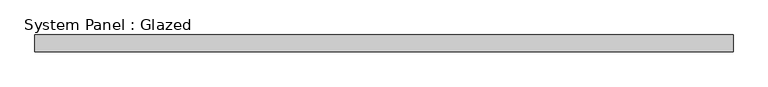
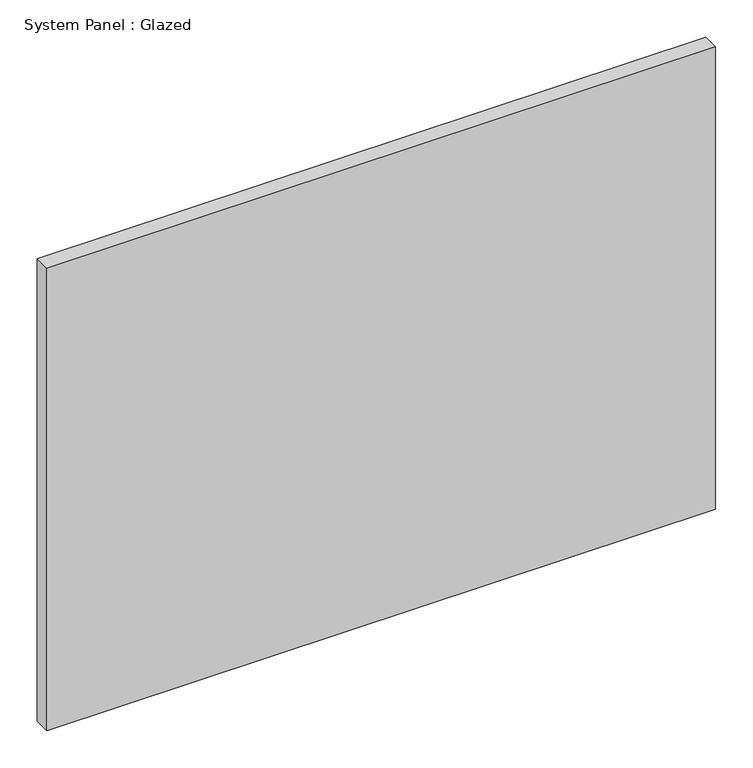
"""IFC4 building model written with IfcOpenShell, lengths in millimetres: plate geometry, System Panel : Glazed."""

from ifc_helpers import new_model, si_unit, origin, origin_with_axes, place, context, project, spatial, polyline, outline, extrude, source, transform, mapped, element, save


def system_panel_glazed_733af30a(model_context):
    return source(origin(), model_context, "Body", "SweptSolid", [
        extrude(outline(polyline([(518.8620624, 19.05), (-518.8620624, 19.05), (-518.8620624, 44.45), (518.8620624, 44.45), (518.8620624, 19.05)])), origin_with_axes(), (0.0, 0.0, 1.0), 758.2776451),
    ])


if __name__ == "__main__":
    model = new_model("IFC4")
    model_context = context("Model", 3, world=origin())
    ifc_project = project(units=[si_unit("LENGTHUNIT", "METRE", prefix="MILLI")], contexts=[model_context])
    site = spatial("IfcSite", under=ifc_project)
    building = spatial("IfcBuilding", under=site)
    placement = place(None, origin())
    system_panel_glazed_shape = system_panel_glazed_733af30a(model_context)
    element("IfcPlate", 1, ObjectType="System Panel : Glazed", at=placement, inside=building, context=model_context, shape_type="MappedRepresentation", body=[
        mapped(system_panel_glazed_shape, transform((0.0, 0.0, 0.0), x_axis=(1.0, 0.0, 0.0), y_axis=(0.0, 1.0, 0.0), z_axis=(0.0, 0.0, 1.0))),
    ])
    save(model, "model.ifc")
